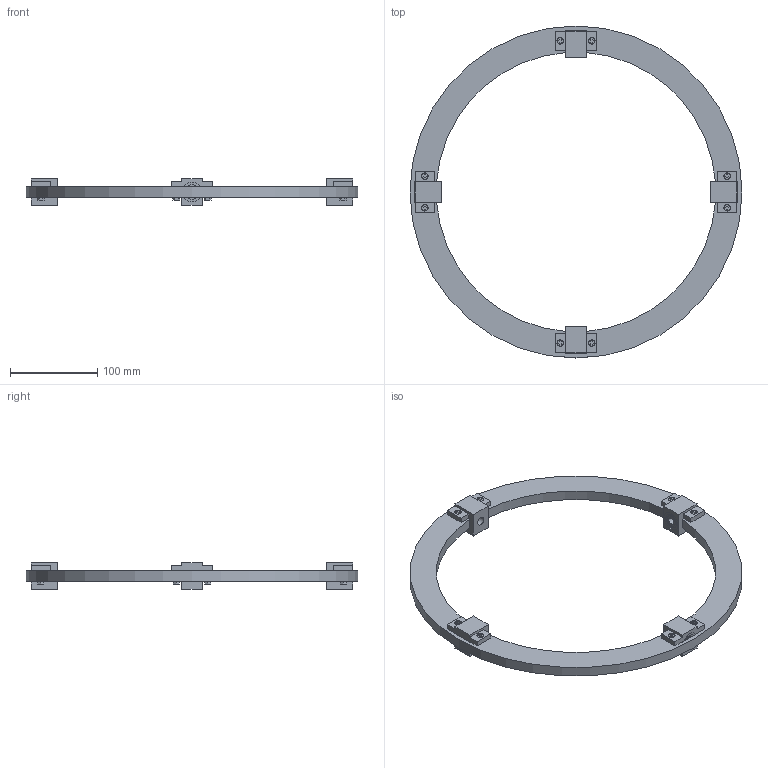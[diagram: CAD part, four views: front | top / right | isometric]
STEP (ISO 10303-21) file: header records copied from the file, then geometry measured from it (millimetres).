
FILE_DESCRIPTION(('Open CASCADE Model'),'2;1');
FILE_NAME('Open CASCADE Shape Model','2026-10-17T21:01:28',('Author'),( 'Open CASCADE'),'Open CASCADE STEP processor 7.9','Open CASCADE 7.9' ,'Unknown');
FILE_SCHEMA(('AUTOMOTIVE_DESIGN { 1 0 10303 214 1 1 1 1 }'));
Length unit declared in the file: millimetre
Products named in the file (26): TARGET_RING; pitch_ring_G10; bearing_block_xn_printed; block_screws_xn_M4; block_nuts_xn_M4_nyloc; gimbal_bearing_xn_608_outer; gimbal_bearing_xn_608_inner; gimbal_bearing_xn_608_seal; bearing_block_xp_printed; block_screws_xp_M4; block_nuts_xp_M4_nyloc; gimbal_bearing_xp_608_outer; gimbal_bearing_xp_608_inner; gimbal_bearing_xp_608_seal; bearing_block_yn_printed; block_screws_yn_M4; block_nuts_yn_M4_nyloc; gimbal_bearing_yn_608_outer; gimbal_bearing_yn_608_inner; gimbal_bearing_yn_608_seal; bearing_block_yp_printed; block_screws_yp_M4; block_nuts_yp_M4_nyloc; gimbal_bearing_yp_608_outer; gimbal_bearing_yp_608_inner; gimbal_bearing_yp_608_seal
Assembly tree (25 placements, depth 2):
  TARGET_RING
    pitch_ring_G10
    bearing_block_xn_printed
    block_screws_xn_M4
    block_nuts_xn_M4_nyloc
    gimbal_bearing_xn_608_outer
    gimbal_bearing_xn_608_inner
    gimbal_bearing_xn_608_seal
    bearing_block_xp_printed
    block_screws_xp_M4
    block_nuts_xp_M4_nyloc
    gimbal_bearing_xp_608_outer
    gimbal_bearing_xp_608_inner
    gimbal_bearing_xp_608_seal
    bearing_block_yn_printed
    block_screws_yn_M4
    block_nuts_yn_M4_nyloc
    gimbal_bearing_yn_608_outer
    gimbal_bearing_yn_608_inner
    gimbal_bearing_yn_608_seal
    bearing_block_yp_printed
    block_screws_yp_M4
    block_nuts_yp_M4_nyloc
    gimbal_bearing_yp_608_outer
    gimbal_bearing_yp_608_inner
    gimbal_bearing_yp_608_seal
Bounding box: 380 x 380 x 30 mm (x, y, z)
Volume: 456802.7 mm3; surface area: 135099.3 mm2
Topology: 33 solids, 33 shells, 335 faces, 723 edges, 482 vertices
Faces by surface type: plane 250, cylinder 85
Full cylindrical faces by diameter (mm): 4 x16, 4.5 x16, 7 x8, 7.6 x8, 8 x4, 10 x4, 13.04 x8, 16.96 x8, 22 x4, 22.05 x4, 380 x1
Entity records: 19188 total; most frequent: CARTESIAN_POINT 3148, DIRECTION 2945, LINE 1717, VECTOR 1717, ORIENTED_EDGE 1446, PCURVE 1446, DEFINITIONAL_REPRESENTATION 1446, EDGE_CURVE 723
